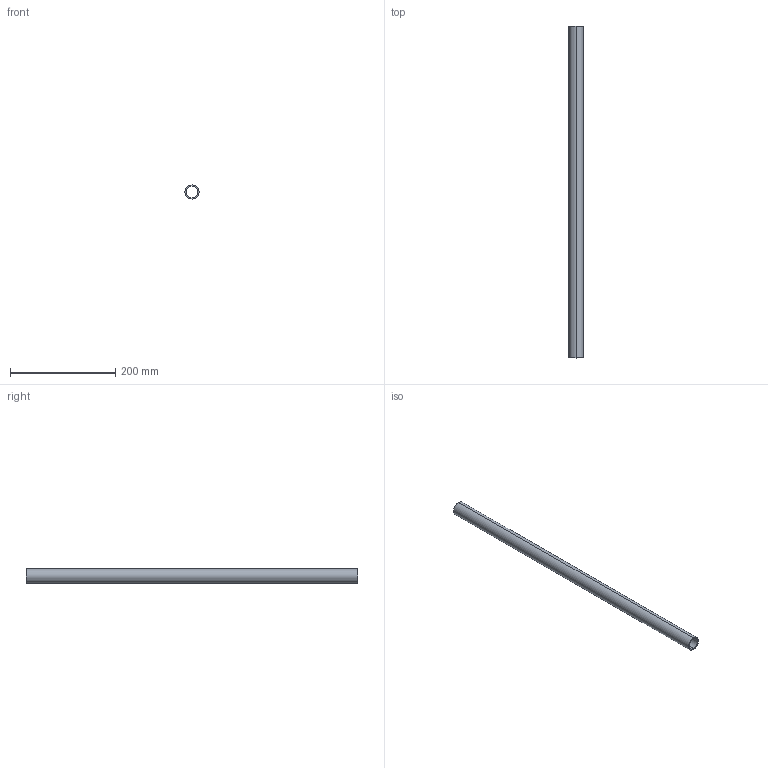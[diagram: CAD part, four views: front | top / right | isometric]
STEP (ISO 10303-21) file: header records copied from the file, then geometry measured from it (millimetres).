
FILE_DESCRIPTION (( 'STEP AP214' ), '1' );
FILE_NAME ('CCJ029-REP.220 - LISSE PLANCHER INFERIEUR B6-ESCALIER.STEP', '2024-01-10T15:00:19', ( '' ), ( '' ), 'SwSTEP 2.0', 'SolidWorks 2021', '' );
FILE_SCHEMA (( 'AUTOMOTIVE_DESIGN' ));
Length unit declared in the file: millimetre
Products named in the file (1): CCJ029-REP.220 - LISSE PLANCHER INFERIEUR B6-ESCALIER
Bounding box: 26.9 x 630 x 26.9 mm (x, y, z)
Volume: 111983.3 mm3; surface area: 97732.3 mm2
Topology: 1 solids, 1 shells, 6 faces, 12 edges, 8 vertices
Faces by surface type: cylinder 4, plane 2
Entity records: 202 total; most frequent: DIRECTION 34, CARTESIAN_POINT 27, ORIENTED_EDGE 24, AXIS2_PLACEMENT_3D 15, EDGE_CURVE 12, VERTEX_POINT 8, EDGE_LOOP 8, CIRCLE 8
